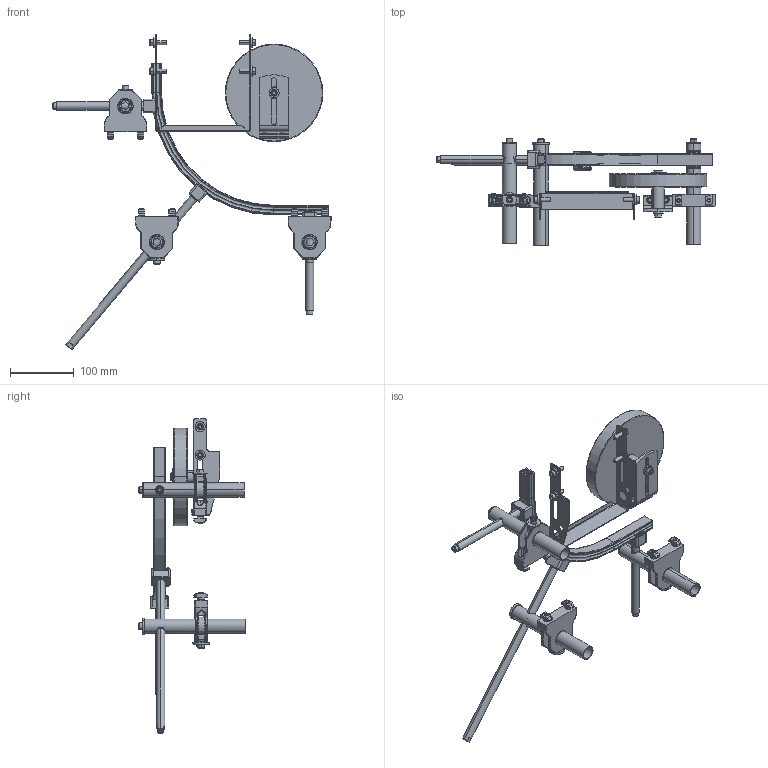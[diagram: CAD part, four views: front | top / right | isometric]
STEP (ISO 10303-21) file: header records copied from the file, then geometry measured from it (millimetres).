
FILE_DESCRIPTION (( 'STEP AP203' ), '1' );
FILE_NAME ('206524-05.STEP', '2018-05-02T19:55:44', ( '' ), ( '' ), 'SwSTEP 2.0', 'SolidWorks 2017', '' );
FILE_SCHEMA (( 'CONFIG_CONTROL_DESIGN' ));
Length unit declared in the file: inch
Products named in the file (32): 911-709_91090A107; 206385_0.875OD; 206380; 207139_207139-05A; 605279P; 207138-WW_5; 206381_206381; 206383_206383; 9706XXM_970620M; 911-710_911-710; 807-2859_91760A321; 9206XXM_920614M; X26235_206686-1; 234005M; 206382_206382_DRAFTS; 206397_206397; 207125-WW_207125-05; 990601M; 9206XXM_920616M; 9206XXM_9206150M; 9206XXM_920620M; 234003M; 234006; 234007M; 915-218; 200830M; 206685; 206386; X26235_206686-2; 807-920; 206524-05; 234013M
Assembly tree (80 placements, depth 3):
  206524-05
    234006
    9206XXM_920616M
    9206XXM_920614M  x2
    200830M
    234007M
    605279P  x5
    234003M
    915-218
    234005M
    207125-WW_207125-05
    207138-WW_5
    X26235_206686-2
      206380
      206381_206381
      206385_0.875OD
      206382_206382_DRAFTS
      206383_206383
      206397_206397
      911-709_91090A107  x2
      9206XXM_920614M  x2
      206685  x2
      807-920  x2
      990601M
      206386
      9206XXM_9206150M
      807-2859_91760A321  x2
    X26235_206686-1
      206380
      206381_206381
      206385_0.875OD
      206382_206382_DRAFTS
      206383_206383
      206397_206397
      911-709_91090A107  x2
      9206XXM_920614M  x2
      206685  x2
      807-920  x2
      990601M
      206386
      9206XXM_9206150M
      807-2859_91760A321  x2
    207139_207139-05A
      206380
      206381_206381
      206385_0.875OD
      206382_206382_DRAFTS
      206383_206383
      206397_206397
      911-710_911-710  x2
      9206XXM_920614M  x2
      206685  x2
      807-920  x2
      990601M
      807-2859_91760A321  x2
      234013M
      9706XXM_970620M
    9206XXM_920620M  x4
Bounding box: 434.61 x 166.66 x 492.14 mm (x, y, z)
Volume: 740213.6 mm3; surface area: 358058.4 mm2
Topology: 77 solids, 77 shells, 2956 faces, 6809 edges, 3959 vertices
Faces by surface type: cylinder 1002, plane 843, cone 487, bspline 297, torus 255, sphere 72
Entity records: 42226 total; most frequent: CARTESIAN_POINT 12346, DIRECTION 5436, ORIENTED_EDGE 5182, EDGE_CURVE 2591, AXIS2_PLACEMENT_3D 2144, VERTEX_POINT 1537, EDGE_LOOP 1204, VECTOR 1148
